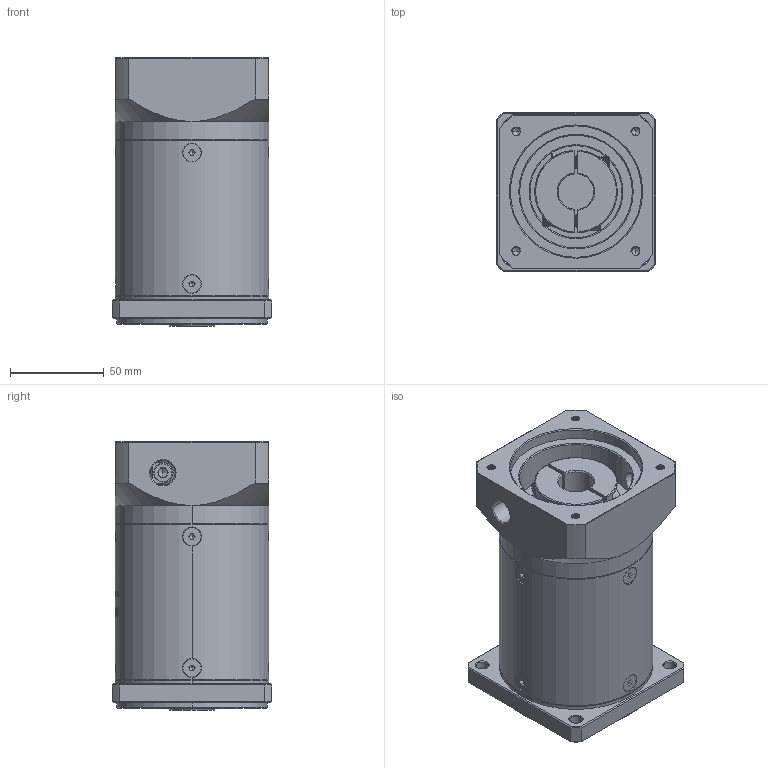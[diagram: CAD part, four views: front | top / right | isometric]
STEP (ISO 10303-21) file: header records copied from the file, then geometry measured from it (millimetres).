
FILE_DESCRIPTION (( 'STEP AP214' ), '1' );
FILE_NAME ('ZF80-K15-L3-19-70-90-M5.step', '2022-09-16T05:32:32', ( '' ), ( 'Microsoft' ), 'SwSTEP 2.0', 'SolidWorks 2016', '' );
FILE_SCHEMA (( 'AUTOMOTIVE_DESIGN' ));
Length unit declared in the file: millimetre
Products named in the file (1): ZF80-K15-L3-19-70-90-M5
Bounding box: 85 x 85 x 143 mm (x, y, z)
Volume: 721659.8 mm3; surface area: 94401 mm2
Topology: 13 solids, 13 shells, 1923 faces, 4988 edges, 3157 vertices
Faces by surface type: plane 884, cylinder 381, cone 331, bspline 310, torus 17
Entity records: 101454 total; most frequent: CARTESIAN_POINT 36718, ORIENTED_EDGE 9920, DIRECTION 7855, EDGE_CURVE 4960, VERTEX_POINT 3157, VECTOR 2709, LINE 2709, AXIS2_PLACEMENT_3D 2573
